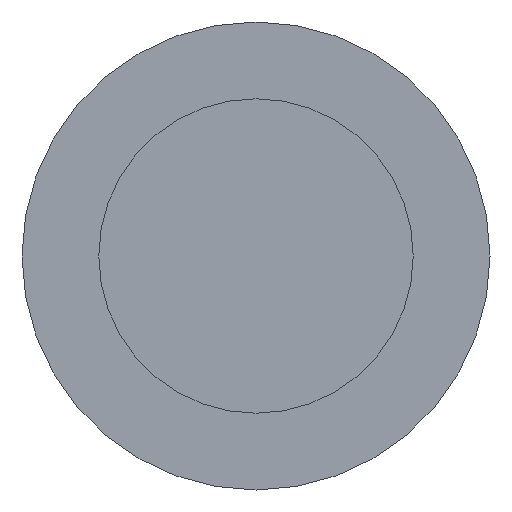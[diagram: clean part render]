
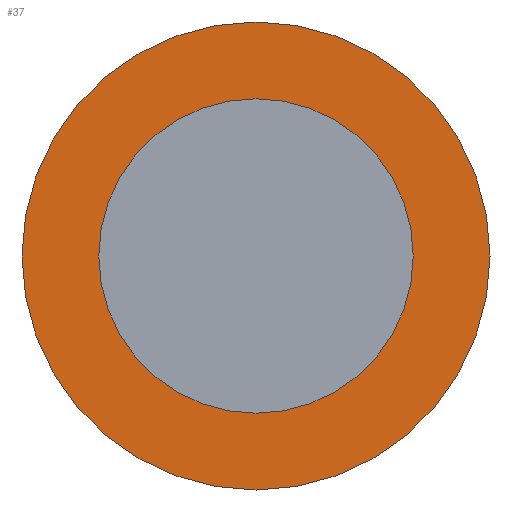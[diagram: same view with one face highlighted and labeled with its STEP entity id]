
A CAD part, front view. The second image highlights one B-rep face of the part: STEP entity #37.
In plain terms, the highlighted planar face has unit normal (0, -1, 0).
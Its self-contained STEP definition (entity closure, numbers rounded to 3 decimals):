
#12 = DIRECTION ( 'NONE',  ( 0., -1., 0. ) ) ;
#17 = EDGE_CURVE ( 'NONE', #188, #290, #68, .T. ) ;
#18 = AXIS2_PLACEMENT_3D ( 'NONE', #162, #119, #49 ) ;
#20 = CARTESIAN_POINT ( 'NONE',  ( 0., 12.5, -3.15 ) ) ;
#21 = PLANE ( 'NONE',  #261 ) ;
#26 = DIRECTION ( 'NONE',  ( 0., -1., 0. ) ) ;
#27 = CARTESIAN_POINT ( 'NONE',  ( 0., 12.5, 0. ) ) ;
#37 = ADVANCED_FACE ( 'NONE', ( #44, #75 ), #21, .T. ) ;
#40 = DIRECTION ( 'NONE',  ( 0., -1., 0. ) ) ;
#44 = FACE_OUTER_BOUND ( 'NONE', #256, .T. ) ;
#47 = CIRCLE ( 'NONE', #147, 3.15 ) ;
#49 = DIRECTION ( 'NONE',  ( 0., 0., -1. ) ) ;
#64 = DIRECTION ( 'NONE',  ( 0., -1., 0. ) ) ;
#68 = CIRCLE ( 'NONE', #18, 4.689 ) ;
#75 = FACE_BOUND ( 'NONE', #187, .T. ) ;
#82 = DIRECTION ( 'NONE',  ( 0., 0., -1. ) ) ;
#87 = AXIS2_PLACEMENT_3D ( 'NONE', #223, #26, #82 ) ;
#102 = VERTEX_POINT ( 'NONE', #20 ) ;
#109 = ORIENTED_EDGE ( 'NONE', *, *, #294, .F. ) ;
#119 = DIRECTION ( 'NONE',  ( 0., -1., 0. ) ) ;
#137 = CARTESIAN_POINT ( 'NONE',  ( 0., 12.5, 3.15 ) ) ;
#138 = DIRECTION ( 'NONE',  ( 0., 0., -1. ) ) ;
#139 = ORIENTED_EDGE ( 'NONE', *, *, #153, .F. ) ;
#147 = AXIS2_PLACEMENT_3D ( 'NONE', #27, #12, #221 ) ;
#153 = EDGE_CURVE ( 'NONE', #166, #102, #175, .T. ) ;
#162 = CARTESIAN_POINT ( 'NONE',  ( 0., 12.5, 0. ) ) ;
#165 = AXIS2_PLACEMENT_3D ( 'NONE', #287, #64, #138 ) ;
#166 = VERTEX_POINT ( 'NONE', #137 ) ;
#175 = CIRCLE ( 'NONE', #87, 3.15 ) ;
#178 = ORIENTED_EDGE ( 'NONE', *, *, #211, .T. ) ;
#182 = CARTESIAN_POINT ( 'NONE',  ( 0., 12.5, -4.689 ) ) ;
#187 = EDGE_LOOP ( 'NONE', ( #109, #139 ) ) ;
#188 = VERTEX_POINT ( 'NONE', #200 ) ;
#190 = CARTESIAN_POINT ( 'NONE',  ( 4.689, 12.5, 0. ) ) ;
#197 = ORIENTED_EDGE ( 'NONE', *, *, #17, .T. ) ;
#200 = CARTESIAN_POINT ( 'NONE',  ( 0., 12.5, 4.689 ) ) ;
#211 = EDGE_CURVE ( 'NONE', #290, #188, #284, .T. ) ;
#221 = DIRECTION ( 'NONE',  ( 0., 0., -1. ) ) ;
#223 = CARTESIAN_POINT ( 'NONE',  ( 0., 12.5, 0. ) ) ;
#256 = EDGE_LOOP ( 'NONE', ( #178, #197 ) ) ;
#261 = AXIS2_PLACEMENT_3D ( 'NONE', #190, #40, #278 ) ;
#278 = DIRECTION ( 'NONE',  ( 0., 0., -1. ) ) ;
#284 = CIRCLE ( 'NONE', #165, 4.689 ) ;
#287 = CARTESIAN_POINT ( 'NONE',  ( 0., 12.5, 0. ) ) ;
#290 = VERTEX_POINT ( 'NONE', #182 ) ;
#294 = EDGE_CURVE ( 'NONE', #102, #166, #47, .T. ) ;
